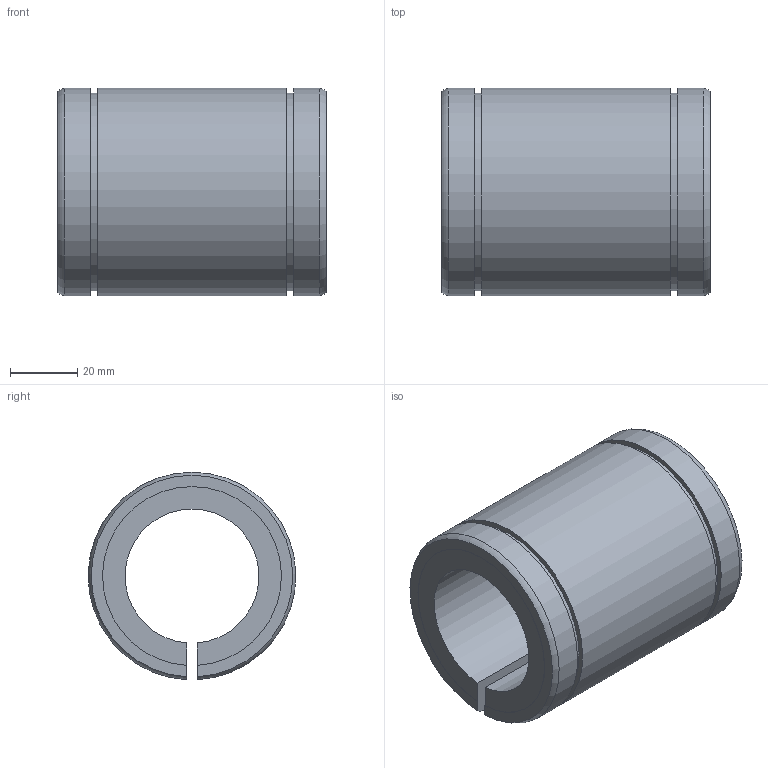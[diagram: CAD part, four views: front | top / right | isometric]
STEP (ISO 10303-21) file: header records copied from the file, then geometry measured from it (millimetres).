
FILE_DESCRIPTION((''),'2;1');
FILE_NAME('D:\製品 (図面)\カタログ用3D\リニアベアリング関連\STEP形式\LE-ADJ\LE40-ADJ.stp','2010-06-03T09:08:41',('Tsuchiya'),(''),'Autodesk Inventor 10','Autodesk Inventor 10','');
FILE_SCHEMA(('AUTOMOTIVE_DESIGN { 1 0 10303 214 1 1 1 1 }'));
Length unit declared in the file: millimetre
Products named in the file (1): LE40-ADJ
Bounding box: 80 x 61.98 x 61.96 mm (x, y, z)
Volume: 136709.5 mm3; surface area: 31178.2 mm2
Topology: 1 solids, 1 shells, 20 faces, 54 edges, 36 vertices
Faces by surface type: plane 10, cylinder 8, torus 2
Entity records: 687 total; most frequent: CARTESIAN_POINT 147, DIRECTION 110, ORIENTED_EDGE 108, EDGE_CURVE 54, AXIS2_PLACEMENT_3D 39, VERTEX_POINT 36, VECTOR 32, LINE 32
